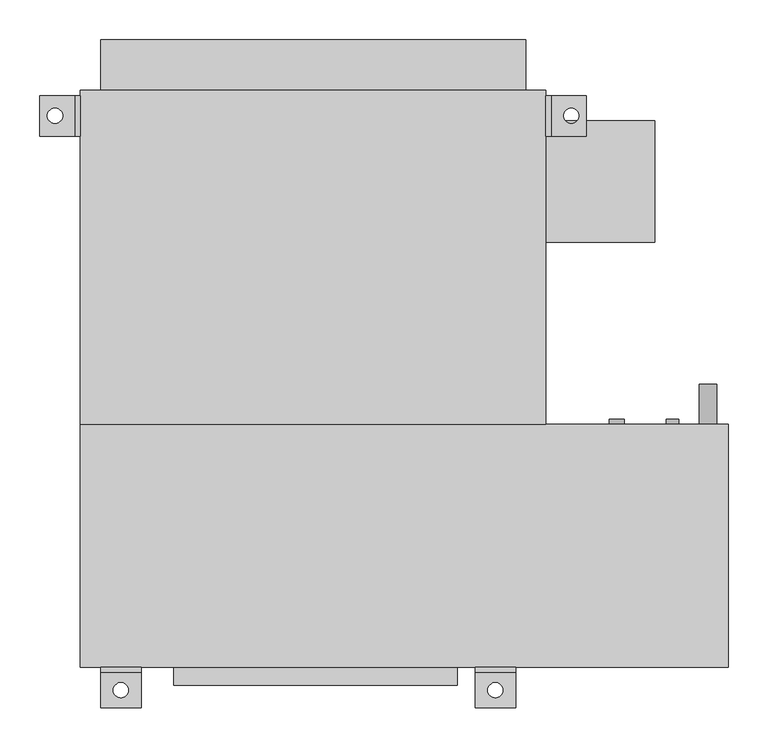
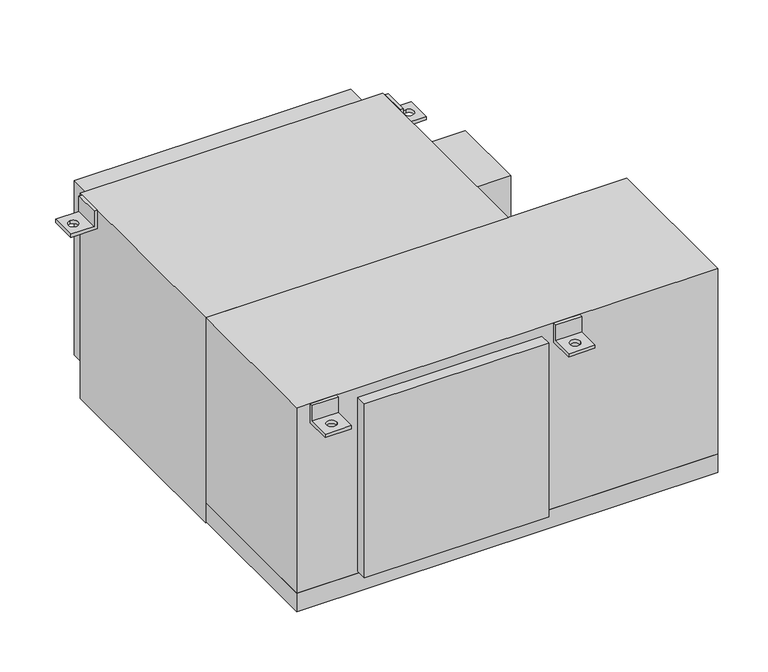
"""IFC4 building model written with IfcOpenShell, lengths in millimetres: proxy geometry, Concealed_High_Capacity_Horizontal_Fan_Coil_Unit_With_Plenum_-_42DCA_-_CARRIER_-_4-Pipe_ValveEnclosure_RH_2022 : Size 06 - 277v/60Hz/1Ph - 6/2 Coil."""

from ifc_helpers import new_model, si_unit, point, frame, frame_2d, origin, place, context, project, spatial, polyline, circle_curve, trimmed, segment, composite_curve, outline, extrude, source, transform, mapped, element, save
from ifc_brep_helpers import plane_surface, revolved_surface, advanced_brep


def mechanical_equipment_0e0a8350(model_context):
    return source(origin(), model_context, "Body", "SolidModel", [
        advanced_brep(
        [(406.4, -390.525, 0.0), (406.4, -396.875, 0.0), (406.4, -396.875, -31.75), (406.4, -441.325, -31.75), (406.4, -441.325, -38.1), (406.4, -390.525, -38.1), (355.6, -390.525, 0.0), (355.6, -390.525, -38.1), (355.6, -441.325, -38.1), (355.6, -441.325, -31.75), (355.6, -396.875, -31.75), (355.6, -396.875, 0.0), (371.475, -419.1, -31.75), (390.525, -419.1, -31.75), (390.525, -419.1, -38.1), (371.475, -419.1, -38.1)],
        [
            (0, 1),
            (1, 2),
            (2, 3),
            (3, 4),
            (4, 5),
            (5, 0),
            (6, 7),
            (7, 8),
            (8, 9),
            (9, 10),
            (10, 11),
            (11, 6),
            (0, 6),
            (11, 1),
            (10, 2),
            (9, 3),
            (12, 13, circle_curve(frame((381.0, -419.1, -31.75), z_axis=(0.0, 0.0, -1.0), x_axis=(1.0, 0.0, 0.0)), 9.525)),
            (13, 12, circle_curve(frame((381.0, -419.1, -31.75), z_axis=(0.0, 0.0, -1.0), x_axis=(1.0, 0.0, 0.0)), 9.525)),
            (8, 4),
            (7, 5),
            (14, 15, circle_curve(frame((381.0, -419.1, -38.1), z_axis=(0.0, 0.0, 1.0), x_axis=(1.0, 0.0, 0.0)), 9.525)),
            (15, 14, circle_curve(frame((381.0, -419.1, -38.1), z_axis=(0.0, 0.0, 1.0), x_axis=(1.0, 0.0, 0.0)), 9.525)),
            (12, 15),
            (14, 13),
        ],
        [
            plane_surface(frame((406.4, -396.875, 0.0), z_axis=(1.0, 0.0, 0.0), x_axis=(0.0, -1.0, 0.0))),
            plane_surface(frame((355.6, -396.875, 0.0), z_axis=(-1.0, 0.0, 0.0), x_axis=(0.0, 1.0, 0.0))),
            plane_surface(frame((406.4, -390.525, 0.0), z_axis=(0.0, 0.0, 1.0), x_axis=(-1.0, 0.0, 0.0))),
            plane_surface(frame((406.4, -396.875, 0.0), z_axis=(0.0, -1.0, 0.0), x_axis=(-1.0, 0.0, 0.0))),
            plane_surface(frame((406.4, -396.875, -31.75), z_axis=(0.0, 0.0, 1.0), x_axis=(-1.0, 0.0, 0.0))),
            plane_surface(frame((406.4, -441.325, -31.75), z_axis=(0.0, -1.0, 0.0), x_axis=(-1.0, 0.0, 0.0))),
            plane_surface(frame((406.4, -441.325, -38.1), z_axis=(0.0, 0.0, -1.0), x_axis=(-1.0, 0.0, 0.0))),
            plane_surface(frame((406.4, -390.525, -38.1), z_axis=(0.0, 1.0, 0.0), x_axis=(-1.0, 0.0, 0.0))),
            revolved_surface(polyline([(390.525, -419.1, -38.1), (390.525, -419.1, -31.75)]), (381.0, -419.1, -31.75), (0.0, 0.0, -1.0)),
        ],
        [
            (0, [[1, 2, 3, 4, 5, 6]]),
            (1, [[7, 8, 9, 10, 11, 12]]),
            (2, [[-1, 13, -12, 14]]),
            (3, [[-2, -14, -11, 15]]),
            (4, [[-3, -15, -10, 16], [17, 18]]),
            (5, [[-4, -16, -9, 19]]),
            (6, [[-5, -19, -8, 20], [21, 22]]),
            (7, [[-6, -20, -7, -13]]),
            (8, [[23, -21, 24, -17]]),
            (8, [[-23, -18, -24, -22]]),
        ],
    ),
        advanced_brep(
        [(-63.5, -390.525, -38.1), (-63.5, -390.525, 0.0), (-63.5, -396.875, 0.0), (-63.5, -396.875, -31.75), (-63.5, -441.325, -31.75), (-63.5, -441.325, -38.1), (-114.3, -390.525, -38.1), (-114.3, -441.325, -38.1), (-114.3, -441.325, -31.75), (-114.3, -396.875, -31.75), (-114.3, -396.875, 0.0), (-114.3, -390.525, 0.0), (-98.425, -419.1, -31.75), (-79.375, -419.1, -31.75), (-79.375, -419.1, -38.1), (-98.425, -419.1, -38.1)],
        [
            (0, 1),
            (1, 2),
            (2, 3),
            (3, 4),
            (4, 5),
            (5, 0),
            (6, 7),
            (7, 8),
            (8, 9),
            (9, 10),
            (10, 11),
            (11, 6),
            (0, 6),
            (11, 1),
            (10, 2),
            (9, 3),
            (8, 4),
            (12, 13, circle_curve(frame((-88.9, -419.1, -31.75), z_axis=(0.0, 0.0, -1.0), x_axis=(1.0, 0.0, 0.0)), 9.525)),
            (13, 12, circle_curve(frame((-88.9, -419.1, -31.75), z_axis=(0.0, 0.0, -1.0), x_axis=(1.0, 0.0, 0.0)), 9.525)),
            (7, 5),
            (14, 15, circle_curve(frame((-88.9, -419.1, -38.1), z_axis=(0.0, 0.0, 1.0), x_axis=(1.0, 0.0, 0.0)), 9.525)),
            (15, 14, circle_curve(frame((-88.9, -419.1, -38.1), z_axis=(0.0, 0.0, 1.0), x_axis=(1.0, 0.0, 0.0)), 9.525)),
            (12, 15),
            (14, 13),
        ],
        [
            plane_surface(frame((-63.5, -390.525, -38.1), z_axis=(1.0, 0.0, 0.0), x_axis=(0.0, 0.0, 1.0))),
            plane_surface(frame((-114.3, -390.525, -38.1), z_axis=(-1.0, 0.0, 0.0), x_axis=(0.0, 0.0, -1.0))),
            plane_surface(frame((-63.5, -390.525, -38.1), z_axis=(0.0, 1.0, 0.0), x_axis=(-1.0, 0.0, 0.0))),
            plane_surface(frame((-63.5, -390.525, 0.0), z_axis=(0.0, 0.0, 1.0), x_axis=(-1.0, 0.0, 0.0))),
            plane_surface(frame((-63.5, -396.875, 0.0), z_axis=(0.0, -1.0, 0.0), x_axis=(-1.0, 0.0, 0.0))),
            plane_surface(frame((-63.5, -396.875, -31.75), z_axis=(0.0, 0.0, 1.0), x_axis=(-1.0, 0.0, 0.0))),
            plane_surface(frame((-63.5, -441.325, -31.75), z_axis=(0.0, -1.0, 0.0), x_axis=(-1.0, 0.0, 0.0))),
            plane_surface(frame((-63.5, -441.325, -38.1), z_axis=(0.0, 0.0, -1.0), x_axis=(-1.0, 0.0, 0.0))),
            revolved_surface(polyline([(-79.375, -419.1, -38.1), (-79.375, -419.1, -31.75)]), (-88.9, -419.1, -31.75), (0.0, 0.0, -1.0)),
        ],
        [
            (0, [[1, 2, 3, 4, 5, 6]]),
            (1, [[7, 8, 9, 10, 11, 12]]),
            (2, [[-1, 13, -12, 14]]),
            (3, [[-2, -14, -11, 15]]),
            (4, [[-3, -15, -10, 16]]),
            (5, [[-4, -16, -9, 17], [18, 19]]),
            (6, [[-5, -17, -8, 20]]),
            (7, [[-6, -20, -7, -13], [21, 22]]),
            (8, [[23, -21, 24, -18]]),
            (8, [[-23, -19, -24, -22]]),
        ],
    ),
        extrude(outline(composite_curve([segment(trimmed(circle_curve(frame_2d((-400.05, 647.7)), 11.1125), [point((-400.05, 636.5875))], [point((-400.05, 658.8125))], False, "CARTESIAN"), True, "CONTINUOUS"), segment(trimmed(circle_curve(frame_2d((-400.05, 647.7)), 11.1125), [point((-400.05, 658.8125))], [point((-400.05, 636.5875))], False, "CARTESIAN"), True, "CONTINUOUS")], self_intersect=False)), frame((0.0, -85.725, 0.0), z_axis=(0.0, 1.0, 0.0), x_axis=(0.0, 0.0, 1.0)), (0.0, 0.0, 1.0), 50.8),
        extrude(outline(composite_curve([segment(trimmed(circle_curve(frame_2d((-44.45, 533.4)), 9.525), [point((-44.45, 523.875))], [point((-44.45, 542.925))], False, "CARTESIAN"), True, "CONTINUOUS"), segment(trimmed(circle_curve(frame_2d((-44.45, 533.4)), 9.525), [point((-44.45, 542.925))], [point((-44.45, 523.875))], False, "CARTESIAN"), True, "CONTINUOUS")], self_intersect=False)), frame((0.0, -85.725, 0.0), z_axis=(0.0, 1.0, 0.0), x_axis=(0.0, 0.0, 1.0)), (0.0, 0.0, 1.0), 6.35),
        extrude(outline(composite_curve([segment(trimmed(circle_curve(frame_2d((-276.225, 533.4)), 9.525), [point((-276.225, 523.875))], [point((-276.225, 542.925))], False, "CARTESIAN"), True, "CONTINUOUS"), segment(trimmed(circle_curve(frame_2d((-276.225, 533.4)), 9.525), [point((-276.225, 542.925))], [point((-276.225, 523.875))], False, "CARTESIAN"), True, "CONTINUOUS")], self_intersect=False)), frame((0.0, -85.725, 0.0), z_axis=(0.0, 1.0, 0.0), x_axis=(0.0, 0.0, 1.0)), (0.0, 0.0, 1.0), 6.35),
        extrude(outline(composite_curve([segment(trimmed(circle_curve(frame_2d((-69.85, 603.25)), 7.9375), [point((-69.85, 595.3125))], [point((-69.85, 611.1875))], False, "CARTESIAN"), True, "CONTINUOUS"), segment(trimmed(circle_curve(frame_2d((-69.85, 603.25)), 7.9375), [point((-69.85, 611.1875))], [point((-69.85, 595.3125))], False, "CARTESIAN"), True, "CONTINUOUS")], self_intersect=False)), frame((0.0, -85.725, 0.0), z_axis=(0.0, 1.0, 0.0), x_axis=(0.0, 0.0, 1.0)), (0.0, 0.0, 1.0), 6.35),
        extrude(outline(composite_curve([segment(trimmed(circle_curve(frame_2d((-285.75, 603.25)), 7.9375), [point((-285.75, 595.3125))], [point((-285.75, 611.1875))], False, "CARTESIAN"), True, "CONTINUOUS"), segment(trimmed(circle_curve(frame_2d((-285.75, 603.25)), 7.9375), [point((-285.75, 611.1875))], [point((-285.75, 595.3125))], False, "CARTESIAN"), True, "CONTINUOUS")], self_intersect=False)), frame((0.0, -85.725, 0.0), z_axis=(0.0, 1.0, 0.0), x_axis=(0.0, 0.0, 1.0)), (0.0, 0.0, 1.0), 6.35),
        advanced_brep(
        [(-139.7, 327.025, -38.1), (-190.5, 327.025, -38.1), (-190.5, 327.025, -31.75), (-146.05, 327.025, -31.75), (-146.05, 327.025, 0.0), (-139.7, 327.025, 0.0), (-139.7, 276.225, -38.1), (-139.7, 276.225, 0.0), (-146.05, 276.225, 0.0), (-146.05, 276.225, -31.75), (-190.5, 276.225, -31.75), (-190.5, 276.225, -38.1), (-171.45, 292.1, -38.1), (-171.45, 311.15, -38.1), (-171.45, 311.15, -31.75), (-171.45, 292.1, -31.75)],
        [
            (0, 1),
            (1, 2),
            (2, 3),
            (3, 4),
            (4, 5),
            (5, 0),
            (6, 7),
            (7, 8),
            (8, 9),
            (9, 10),
            (10, 11),
            (11, 6),
            (0, 6),
            (11, 1),
            (12, 13, circle_curve(frame((-171.45, 301.625, -38.1), z_axis=(0.0, 0.0, 1.0), x_axis=(0.0, -1.0, 0.0)), 9.525)),
            (13, 12, circle_curve(frame((-171.45, 301.625, -38.1), z_axis=(0.0, 0.0, 1.0), x_axis=(0.0, -1.0, 0.0)), 9.525)),
            (10, 2),
            (9, 3),
            (14, 15, circle_curve(frame((-171.45, 301.625, -31.75), z_axis=(0.0, 0.0, -1.0), x_axis=(0.0, -1.0, 0.0)), 9.525)),
            (15, 14, circle_curve(frame((-171.45, 301.625, -31.75), z_axis=(0.0, 0.0, -1.0), x_axis=(0.0, -1.0, 0.0)), 9.525)),
            (8, 4),
            (7, 5),
            (14, 13),
            (12, 15),
        ],
        [
            plane_surface(frame((-139.7, 327.025, -38.1), z_axis=(0.0, 1.0, 0.0), x_axis=(-1.0, 0.0, 0.0))),
            plane_surface(frame((-139.7, 276.225, -38.1), z_axis=(0.0, -1.0, 0.0), x_axis=(1.0, 0.0, 0.0))),
            plane_surface(frame((-139.7, 327.025, -38.1), z_axis=(0.0, 0.0, -1.0), x_axis=(0.0, -1.0, 0.0))),
            plane_surface(frame((-190.5, 327.025, -38.1), z_axis=(-1.0, 0.0, 0.0), x_axis=(0.0, -1.0, 0.0))),
            plane_surface(frame((-190.5, 327.025, -31.75), z_axis=(0.0, 0.0, 1.0), x_axis=(0.0, -1.0, 0.0))),
            plane_surface(frame((-146.05, 327.025, -31.75), z_axis=(-1.0, 0.0, 0.0), x_axis=(0.0, -1.0, 0.0))),
            plane_surface(frame((-146.05, 327.025, 0.0), z_axis=(0.0, 0.0, 1.0), x_axis=(0.0, -1.0, 0.0))),
            plane_surface(frame((-139.7, 327.025, 0.0), z_axis=(1.0, 0.0, 0.0), x_axis=(0.0, -1.0, 0.0))),
            revolved_surface(polyline([(-171.45, 292.1, -38.1), (-171.45, 292.1, -31.75)]), (-171.45, 301.625, -31.75), (0.0, 0.0, -1.0)),
        ],
        [
            (0, [[1, 2, 3, 4, 5, 6]]),
            (1, [[7, 8, 9, 10, 11, 12]]),
            (2, [[-1, 13, -12, 14], [15, 16]]),
            (3, [[-2, -14, -11, 17]]),
            (4, [[-3, -17, -10, 18], [19, 20]]),
            (5, [[-4, -18, -9, 21]]),
            (6, [[-5, -21, -8, 22]]),
            (7, [[-6, -22, -7, -13]]),
            (8, [[23, -15, 24, -19]]),
            (8, [[-23, -20, -24, -16]]),
        ],
    ),
        advanced_brep(
        [(444.5, 327.025, -38.1), (444.5, 327.025, 0.0), (450.85, 327.025, 0.0), (450.85, 327.025, -31.75), (495.3, 327.025, -31.75), (495.3, 327.025, -38.1), (444.5, 276.225, -38.1), (495.3, 276.225, -38.1), (495.3, 276.225, -31.75), (450.85, 276.225, -31.75), (450.85, 276.225, 0.0), (444.5, 276.225, 0.0), (476.25, 311.15, -31.75), (476.25, 292.1, -31.75), (476.25, 292.1, -38.1), (476.25, 311.15, -38.1)],
        [
            (0, 1),
            (1, 2),
            (2, 3),
            (3, 4),
            (4, 5),
            (5, 0),
            (6, 7),
            (7, 8),
            (8, 9),
            (9, 10),
            (10, 11),
            (11, 6),
            (0, 6),
            (11, 1),
            (10, 2),
            (9, 3),
            (8, 4),
            (12, 13, circle_curve(frame((476.25, 301.625, -31.75), z_axis=(0.0, 0.0, -1.0), x_axis=(0.0, -1.0, 0.0)), 9.525)),
            (13, 12, circle_curve(frame((476.25, 301.625, -31.75), z_axis=(0.0, 0.0, -1.0), x_axis=(0.0, -1.0, 0.0)), 9.525)),
            (7, 5),
            (14, 15, circle_curve(frame((476.25, 301.625, -38.1), z_axis=(0.0, 0.0, 1.0), x_axis=(0.0, -1.0, 0.0)), 9.525)),
            (15, 14, circle_curve(frame((476.25, 301.625, -38.1), z_axis=(0.0, 0.0, 1.0), x_axis=(0.0, -1.0, 0.0)), 9.525)),
            (12, 15),
            (14, 13),
        ],
        [
            plane_surface(frame((-139.7, 327.025, -38.1), z_axis=(0.0, 1.0, 0.0), x_axis=(-1.0, 0.0, 0.0))),
            plane_surface(frame((-139.7, 276.225, -38.1), z_axis=(0.0, -1.0, 0.0), x_axis=(1.0, 0.0, 0.0))),
            plane_surface(frame((444.5, 327.025, -38.1), z_axis=(-1.0, 0.0, 0.0), x_axis=(0.0, -1.0, 0.0))),
            plane_surface(frame((444.5, 327.025, 0.0), z_axis=(0.0, 0.0, 1.0), x_axis=(0.0, -1.0, 0.0))),
            plane_surface(frame((450.85, 327.025, 0.0), z_axis=(1.0, 0.0, 0.0), x_axis=(0.0, -1.0, 0.0))),
            plane_surface(frame((450.85, 327.025, -31.75), z_axis=(0.0, 0.0, 1.0), x_axis=(0.0, -1.0, 0.0))),
            plane_surface(frame((495.3, 327.025, -31.75), z_axis=(1.0, 0.0, 0.0), x_axis=(0.0, -1.0, 0.0))),
            plane_surface(frame((495.3, 327.025, -38.1), z_axis=(0.0, 0.0, -1.0), x_axis=(0.0, -1.0, 0.0))),
            revolved_surface(polyline([(476.25, 292.1, -38.1), (476.25, 292.1, -31.75)]), (476.25, 301.625, -31.75), (0.0, 0.0, -1.0)),
        ],
        [
            (0, [[1, 2, 3, 4, 5, 6]]),
            (1, [[7, 8, 9, 10, 11, 12]]),
            (2, [[-1, 13, -12, 14]]),
            (3, [[-2, -14, -11, 15]]),
            (4, [[-3, -15, -10, 16]]),
            (5, [[-4, -16, -9, 17], [18, 19]]),
            (6, [[-5, -17, -8, 20]]),
            (7, [[-6, -20, -7, -13], [21, 22]]),
            (8, [[23, -21, 24, -18]]),
            (8, [[-23, -19, -24, -22]]),
        ],
    ),
        extrude(outline(polyline([(-114.3, 396.875), (419.1, 396.875), (419.1, 333.375), (-114.3, 333.375), (-114.3, 396.875)])), frame((0.0, 0.0, -377.825), z_axis=(0.0, 0.0, 1.0), x_axis=(1.0, 0.0, 0.0)), (0.0, 0.0, 1.0), 355.6),
        extrude(outline(polyline([(581.025, 295.275), (581.025, 142.875), (444.5, 142.875), (444.5, 295.275), (581.025, 295.275)])), frame((0.0, 0.0, -254.0), z_axis=(0.0, 0.0, 1.0), x_axis=(1.0, 0.0, 0.0)), (0.0, 0.0, 1.0), 152.4),
        extrude(outline(polyline([(333.375, -412.75), (-22.225, -412.75), (-22.225, -390.525), (333.375, -390.525), (333.375, -412.75)])), frame((0.0, 0.0, -374.65), z_axis=(0.0, 0.0, 1.0), x_axis=(1.0, 0.0, 0.0)), (0.0, 0.0, 1.0), 355.6),
        extrude(outline(polyline([(444.5, -85.725), (-139.7, -85.725), (-139.7, 333.375), (444.5, 333.375), (444.5, -85.725)])), frame((0.0, 0.0, -419.1), z_axis=(0.0, 0.0, 1.0), x_axis=(1.0, 0.0, 0.0)), (0.0, 0.0, 1.0), 419.1),
        extrude(outline(polyline([(673.1, -85.725), (673.1, -390.525), (-139.7, -390.525), (-139.7, -85.725), (673.1, -85.725)])), frame((0.0, 0.0, -377.825), z_axis=(0.0, 0.0, 1.0), x_axis=(1.0, 0.0, 0.0)), (0.0, 0.0, 1.0), 377.825),
        extrude(outline(polyline([(673.1, -85.725), (673.1, -390.525), (-139.7, -390.525), (-139.7, -85.725), (673.1, -85.725)])), frame((0.0, 0.0, -415.925), z_axis=(0.0, 0.0, 1.0), x_axis=(1.0, 0.0, 0.0)), (0.0, 0.0, 1.0), 38.1),
    ])


if __name__ == "__main__":
    model = new_model("IFC4")
    model_context = context("Model", 3, world=origin())
    ifc_project = project(units=[si_unit("LENGTHUNIT", "METRE", prefix="MILLI")], contexts=[model_context])
    site = spatial("IfcSite", under=ifc_project)
    building = spatial("IfcBuilding", under=site)
    placement = place(None, origin())
    mechanical_equipment_shape = mechanical_equipment_0e0a8350(model_context)
    element("IfcBuildingElementProxy", 1, Name="Concealed_High_Capacity_Horizontal_Fan_Coil_Unit_With_Plenum_-_42DCA_-_CARRIER_-_4-Pipe_ValveEnclosure_RH_2022 : Size 06 - 277v/60Hz/1Ph - 6/2 Coil", ObjectType="Concealed_High_Capacity_Horizontal_Fan_Coil_Unit_With_Plenum_-_42DCA_-_CARRIER_-_4-Pipe_ValveEnclosure_RH_2022 : Size 06 - 277v/60Hz/1Ph - 6/2 Coil", at=placement, inside=building, context=model_context, shape_type="MappedRepresentation", body=[
        mapped(mechanical_equipment_shape, transform((0.0, 0.0, 0.0), x_axis=(1.0, 0.0, 0.0), y_axis=(0.0, 1.0, 0.0), z_axis=(0.0, 0.0, 1.0))),
    ])
    save(model, "model.ifc")
